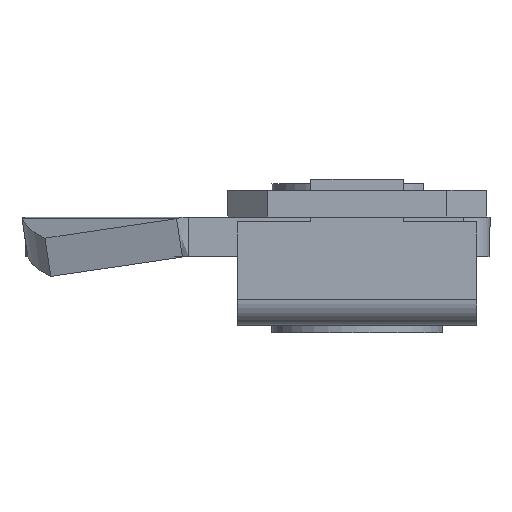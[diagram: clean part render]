
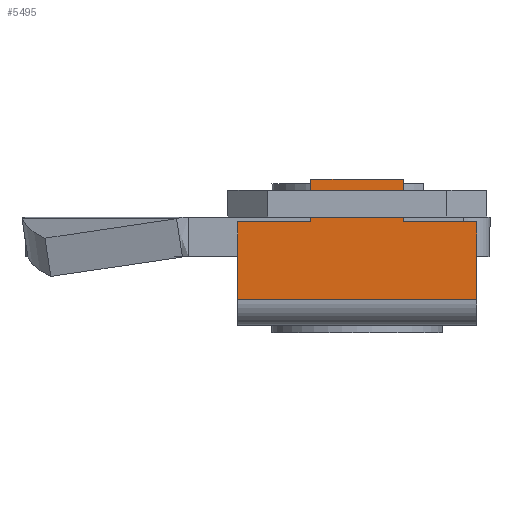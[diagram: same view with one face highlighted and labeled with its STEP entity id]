
A CAD part, front view. The second image highlights one B-rep face of the part: STEP entity #5495.
In plain terms, the highlighted planar face has unit normal (0, -1, 0) as drawn and (1, 0, 0) by its records, which use the part's own axes.
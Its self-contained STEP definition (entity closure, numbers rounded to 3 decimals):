
#3562 = ORIENTED_EDGE ( 'NONE', *, *, #5412, .F. ) ;
#3564 = ORIENTED_EDGE ( 'NONE', *, *, #5380, .F. ) ;
#4882 = CARTESIAN_POINT ( 'NONE',  ( 72.6, -9., 2. ) ) ;
#4927 = DIRECTION ( 'NONE',  ( 0., 1., 0. ) ) ;
#4928 = VECTOR ( 'NONE', #4927, 1000. ) ;
#4929 = CARTESIAN_POINT ( 'NONE',  ( 72.6, -3.5, 2. ) ) ;
#4930 = LINE ( 'NONE', #4929, #4928 ) ;
#4931 = CARTESIAN_POINT ( 'NONE',  ( 72.6, 9., 2. ) ) ;
#4947 = CARTESIAN_POINT ( 'NONE',  ( 72.6, -3.5, 11.029 ) ) ;
#4949 = DIRECTION ( 'NONE',  ( 0., 1., 0. ) ) ;
#4951 = VECTOR ( 'NONE', #4949, 1000. ) ;
#4953 = CARTESIAN_POINT ( 'NONE',  ( 72.6, -3.5, 11.029 ) ) ;
#4964 = LINE ( 'NONE', #4953, #4951 ) ;
#5012 = CARTESIAN_POINT ( 'NONE',  ( 72.6, 3.5, 11.029 ) ) ;
#5013 = DIRECTION ( 'NONE',  ( 0., 0., -1. ) ) ;
#5015 = VECTOR ( 'NONE', #5013, 1000. ) ;
#5016 = CARTESIAN_POINT ( 'NONE',  ( 72.6, 3.5, 7.829 ) ) ;
#5028 = LINE ( 'NONE', #5016, #5015 ) ;
#5075 = DIRECTION ( 'NONE',  ( 0., 1., 0. ) ) ;
#5076 = VECTOR ( 'NONE', #5075, 1000. ) ;
#5078 = CARTESIAN_POINT ( 'NONE',  ( 72.6, -9., 7.829 ) ) ;
#5086 = LINE ( 'NONE', #5078, #5076 ) ;
#5105 = CARTESIAN_POINT ( 'NONE',  ( 72.6, 9., 7.829 ) ) ;
#5107 = CARTESIAN_POINT ( 'NONE',  ( 72.6, 3.5, 7.829 ) ) ;
#5109 = DIRECTION ( 'NONE',  ( 0., 1., 0. ) ) ;
#5111 = VECTOR ( 'NONE', #5109, 1000. ) ;
#5113 = CARTESIAN_POINT ( 'NONE',  ( 72.6, 9., 7.829 ) ) ;
#5121 = LINE ( 'NONE', #5113, #5111 ) ;
#5144 = CARTESIAN_POINT ( 'NONE',  ( 72.6, -3.5, 7.829 ) ) ;
#5150 = DIRECTION ( 'NONE',  ( 0., 0., 1. ) ) ;
#5152 = VECTOR ( 'NONE', #5150, 1000. ) ;
#5153 = CARTESIAN_POINT ( 'NONE',  ( 72.6, -3.5, 7.829 ) ) ;
#5164 = LINE ( 'NONE', #5153, #5152 ) ;
#5213 = CARTESIAN_POINT ( 'NONE',  ( 72.6, -9., 7.829 ) ) ;
#5225 = VERTEX_POINT ( 'NONE', #4882 ) ;
#5241 = VERTEX_POINT ( 'NONE', #4931 ) ;
#5243 = EDGE_CURVE ( 'NONE', #5225, #5241, #4930, .T. ) ;
#5288 = DIRECTION ( 'NONE',  ( 0., 0., -1. ) ) ;
#5290 = VECTOR ( 'NONE', #5288, 1000. ) ;
#5292 = CARTESIAN_POINT ( 'NONE',  ( 72.6, 9., -36.67 ) ) ;
#5295 = DIRECTION ( 'NONE',  ( 0., 0., 1. ) ) ;
#5297 = DIRECTION ( 'NONE',  ( -1., 0., 0. ) ) ;
#5298 = CARTESIAN_POINT ( 'NONE',  ( 72.6, -3.5, 11.029 ) ) ;
#5299 = EDGE_CURVE ( 'NONE', #5302, #5334, #4964, .T. ) ;
#5300 = AXIS2_PLACEMENT_3D ( 'NONE', #5298, #5297, #5295 ) ;
#5302 = VERTEX_POINT ( 'NONE', #4947 ) ;
#5301 = PLANE ( 'NONE',  #5300 ) ;
#5303 = LINE ( 'NONE', #5292, #5290 ) ;
#5309 = FACE_OUTER_BOUND ( 'NONE', #5496, .T. ) ;
#5311 = DIRECTION ( 'NONE',  ( 0., 0., 1. ) ) ;
#5312 = VECTOR ( 'NONE', #5311, 1000. ) ;
#5314 = CARTESIAN_POINT ( 'NONE',  ( 72.6, -9., -36.67 ) ) ;
#5316 = LINE ( 'NONE', #5314, #5312 ) ;
#5333 = EDGE_CURVE ( 'NONE', #5334, #5357, #5028, .T. ) ;
#5334 = VERTEX_POINT ( 'NONE', #5012 ) ;
#5356 = EDGE_CURVE ( 'NONE', #5357, #5358, #5121, .T. ) ;
#5357 = VERTEX_POINT ( 'NONE', #5107 ) ;
#5358 = VERTEX_POINT ( 'NONE', #5105 ) ;
#5360 = ORIENTED_EDGE ( 'NONE', *, *, #5333, .F. ) ;
#5361 = ORIENTED_EDGE ( 'NONE', *, *, #5299, .F. ) ;
#5380 = EDGE_CURVE ( 'NONE', #5383, #5413, #5086, .T. ) ;
#5383 = VERTEX_POINT ( 'NONE', #5213 ) ;
#5412 = EDGE_CURVE ( 'NONE', #5413, #5302, #5164, .T. ) ;
#5413 = VERTEX_POINT ( 'NONE', #5144 ) ;
#5492 = EDGE_CURVE ( 'NONE', #5225, #5383, #5316, .T. ) ;
#5495 = ADVANCED_FACE ( 'NONE', ( #5309 ), #5301, .F. ) ;
#5496 = EDGE_LOOP ( 'NONE', ( #5497, #5499, #5500, #5502, #5360, #5361, #3562, #3564 ) ) ;
#5497 = ORIENTED_EDGE ( 'NONE', *, *, #5492, .F. ) ;
#5499 = ORIENTED_EDGE ( 'NONE', *, *, #5243, .T. ) ;
#5500 = ORIENTED_EDGE ( 'NONE', *, *, #5501, .F. ) ;
#5501 = EDGE_CURVE ( 'NONE', #5358, #5241, #5303, .T. ) ;
#5502 = ORIENTED_EDGE ( 'NONE', *, *, #5356, .F. ) ;
